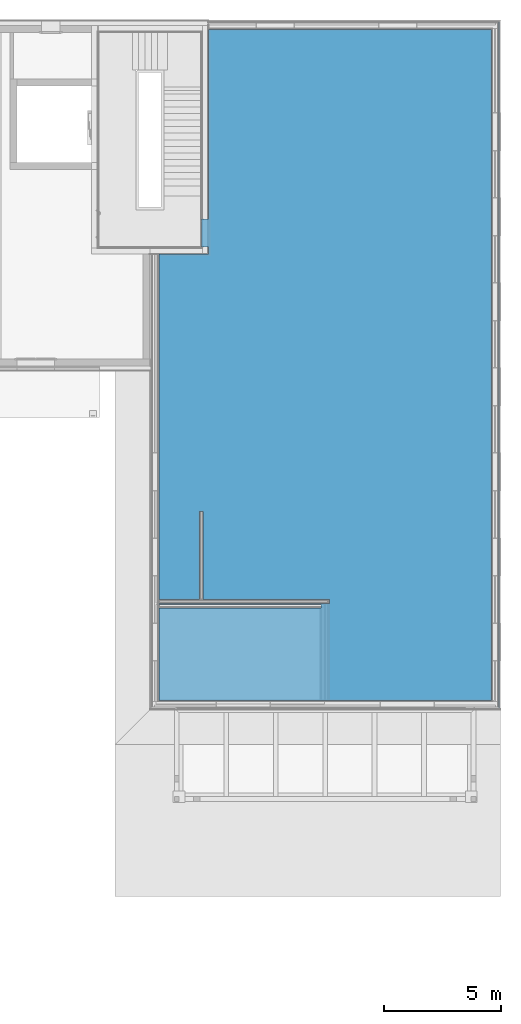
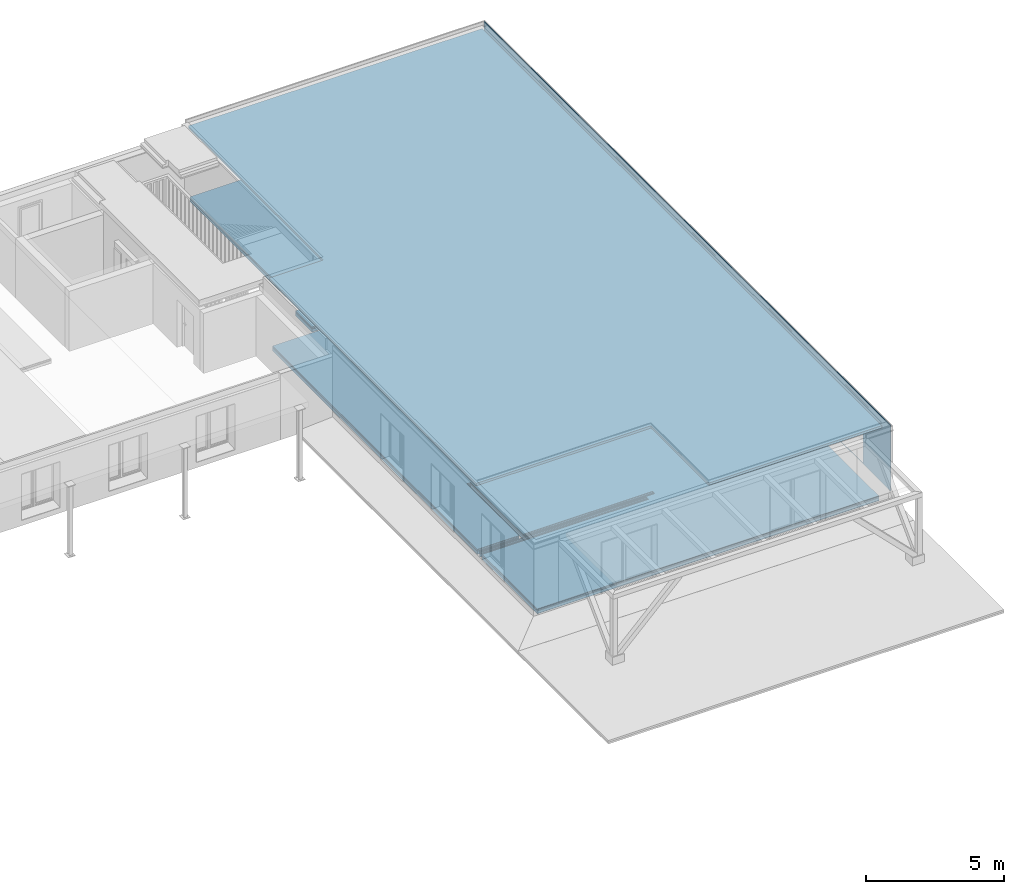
# One storey, part 14 of 20: 7 building element parts, 7 openings, 3 elements without a shape of their own.
"""IFC4 building model written with IfcOpenShell, lengths in millimetres."""

from ifc_helpers import new_model, entity, si_unit, converted_unit, derived_unit, direction, frame, origin_with_axes, place, context, subcontext, project, spatial, polygons, material, type_object, element, aggregate, save


model = new_model("IFC4")

# Units and contexts
model_context = context("Model", 3, precision=0.01, world=origin_with_axes(), true_north=direction((0.0, 1.0)))
body_context = subcontext(model_context, "Body", "Model", "MODEL_VIEW")
ifc_project = project(units=[si_unit("LENGTHUNIT", "METRE", prefix="MILLI"), si_unit("AREAUNIT", "SQUARE_METRE"), si_unit("VOLUMEUNIT", "CUBIC_METRE"), converted_unit("PLANEANGLEUNIT", "DEGREE", entity("IfcPlaneAngleMeasure", 0.0174532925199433), si_unit("PLANEANGLEUNIT", "RADIAN"), dimensions=[0, 0, 0, 0, 0, 0, 0]), converted_unit("TIMEUNIT", "Year", entity("IfcTimeMeasure", 31557600.0), si_unit("TIMEUNIT", "SECOND"), dimensions=[0, 0, 1, 0, 0, 0, 0]), si_unit("MASSUNIT", "GRAM", prefix="KILO"), si_unit("THERMODYNAMICTEMPERATUREUNIT", "DEGREE_CELSIUS"), si_unit("LUMINOUSINTENSITYUNIT", "LUMEN"), si_unit("ENERGYUNIT", "JOULE", prefix="MEGA"), derived_unit("THERMALCONDUCTANCEUNIT", [(si_unit("POWERUNIT", "WATT"), 1), (si_unit("LENGTHUNIT", "METRE"), -1), (si_unit("THERMODYNAMICTEMPERATUREUNIT", "KELVIN"), -1)]), derived_unit("SPECIFICHEATCAPACITYUNIT", [(si_unit("ENERGYUNIT", "JOULE"), 1), (si_unit("MASSUNIT", "GRAM", prefix="KILO"), -1), (si_unit("THERMODYNAMICTEMPERATUREUNIT", "KELVIN"), -1)]), derived_unit("MASSDENSITYUNIT", [(si_unit("MASSUNIT", "GRAM", prefix="KILO"), 1), (si_unit("VOLUMEUNIT", "CUBIC_METRE"), -1)])], contexts=[model_context])

# Site, building, storey
site_placement = place(None, origin_with_axes())
site = spatial("IfcSite", under=ifc_project, at=site_placement, Name="Gelände", CompositionType="ELEMENT")
building_placement = place(site_placement, origin_with_axes())
building = spatial("IfcBuilding", under=site, at=building_placement, Name="Gebäude", CompositionType="ELEMENT")
storey_placement = place(building_placement, frame((0.0, 0.0, 5.198845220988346e-05), z_axis=(0.0, 0.0, 1.0), x_axis=(1.0, 0.0, 0.0)))
storey = spatial("IfcBuildingStorey", under=building, at=storey_placement, Name="EG", CompositionType="ELEMENT", Elevation=0.0)

# Curtain wall, openings, building element part
curtain_wall_type = type_object("IfcCurtainWallType", Name="Fassade Typ 02 - Vertikale Schalung 71", PredefinedType="NOTDEFINED")
curtain_wall_placement = place(storey_placement, frame((32928.99744477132, 37947.59728131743, 500.0000000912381), z_axis=(0.0, 0.0, 1.0), x_axis=(0.0, -1.0, 0.0)))
curtain_wall = element("IfcCurtainWall", 1, at=curtain_wall_placement, inside=storey, type_object=curtain_wall_type, Name="AW01", PredefinedType="NOTDEFINED")
opening_1_placement = place(curtain_wall_placement, frame((26608.00000000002, 0.0, 9.999999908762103), z_axis=(0.0, 0.0, 1.0), x_axis=(1.0, 0.0, 0.0)))
element("IfcOpeningElement", 2, at=opening_1_placement, cuts=curtain_wall, Name="Fenster-004", context=body_context, identifier="Reference", shape_type="Tessellation", body=[
    polygons([(820.9999999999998, 0.9999999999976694, 2030.0), (820.9999999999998, 0.9999999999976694, 0.0), (-820.9999999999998, 0.9999999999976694, 0.0), (-820.9999999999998, 0.9999999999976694, 2030.0), (820.9999999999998, -71.99999999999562, 2030.0), (820.9999999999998, -71.99999999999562, 0.0), (-820.9999999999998, -71.99999999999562, 0.0), (-820.9999999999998, -71.99999999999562, 2030.0)], [[[1, 2, 3, 4]], [[5, 6, 2, 1]], [[6, 7, 3, 2]], [[7, 8, 4, 3]], [[8, 5, 1, 4]], [[7, 6, 5, 8]]], closed=True),
])
opening_2_placement = place(curtain_wall_placement, frame((22966.00000000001, 0.0, 9.999999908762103), z_axis=(0.0, 0.0, 1.0), x_axis=(1.0, 0.0, 0.0)))
element("IfcOpeningElement", 3, at=opening_2_placement, cuts=curtain_wall, Name="Fenster-004", context=body_context, identifier="Reference", shape_type="Tessellation", body=[
    polygons([(820.9999999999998, 0.9999999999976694, 2030.0), (820.9999999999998, 0.9999999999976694, 0.0), (-820.9999999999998, 0.9999999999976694, 0.0), (-820.9999999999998, 0.9999999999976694, 2030.0), (820.9999999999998, -71.99999999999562, 2030.0), (820.9999999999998, -71.99999999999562, 0.0), (-820.9999999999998, -71.99999999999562, 0.0), (-820.9999999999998, -71.99999999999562, 2030.0)], [[[1, 2, 3, 4]], [[5, 6, 2, 1]], [[6, 7, 3, 2]], [[7, 8, 4, 3]], [[8, 5, 1, 4]], [[7, 6, 5, 8]]], closed=True),
])
opening_3_placement = place(curtain_wall_placement, frame((15682.00000000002, 0.0, 9.999999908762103), z_axis=(0.0, 0.0, 1.0), x_axis=(1.0, 0.0, 0.0)))
element("IfcOpeningElement", 4, at=opening_3_placement, cuts=curtain_wall, Name="Fenster-004", context=body_context, identifier="Reference", shape_type="Tessellation", body=[
    polygons([(821.0000000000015, 0.9999999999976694, 2030.0), (821.0000000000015, 0.9999999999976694, 0.0), (-821.0000000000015, 0.9999999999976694, 0.0), (-821.0000000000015, 0.9999999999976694, 2030.0), (821.0000000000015, -71.99999999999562, 2030.0), (821.0000000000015, -71.99999999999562, 0.0), (-821.0000000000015, -71.99999999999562, 0.0), (-821.0000000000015, -71.99999999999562, 2030.0)], [[[1, 2, 3, 4]], [[5, 6, 2, 1]], [[6, 7, 3, 2]], [[7, 8, 4, 3]], [[8, 5, 1, 4]], [[7, 6, 5, 8]]], closed=True),
])
opening_4_placement = place(curtain_wall_placement, frame((12040.00000000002, 0.0, 9.999999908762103), z_axis=(0.0, 0.0, 1.0), x_axis=(1.0, 0.0, 0.0)))
element("IfcOpeningElement", 5, at=opening_4_placement, cuts=curtain_wall, Name="Fenster-004", context=body_context, identifier="Reference", shape_type="Tessellation", body=[
    polygons([(821.0000000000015, 0.9999999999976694, 2030.0), (821.0000000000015, 0.9999999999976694, 0.0), (-821.0000000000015, 0.9999999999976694, 0.0), (-821.0000000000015, 0.9999999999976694, 2030.0), (821.0000000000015, -71.99999999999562, 2030.0), (821.0000000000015, -71.99999999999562, 0.0), (-821.0000000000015, -71.99999999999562, 0.0), (-821.0000000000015, -71.99999999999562, 2030.0)], [[[1, 2, 3, 4]], [[5, 6, 2, 1]], [[6, 7, 3, 2]], [[7, 8, 4, 3]], [[8, 5, 1, 4]], [[7, 6, 5, 8]]], closed=True),
])
opening_5_placement = place(curtain_wall_placement, frame((19324.00000000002, 0.0, 9.999999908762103), z_axis=(0.0, 0.0, 1.0), x_axis=(1.0, 0.0, 0.0)))
element("IfcOpeningElement", 6, at=opening_5_placement, cuts=curtain_wall, Name="Fenster-004", context=body_context, identifier="Reference", shape_type="Tessellation", body=[
    polygons([(821.0000000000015, 0.9999999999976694, 2030.0), (821.0000000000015, 0.9999999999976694, 0.0), (-821.0000000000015, 0.9999999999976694, 0.0), (-821.0000000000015, 0.9999999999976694, 2030.0), (821.0000000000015, -71.99999999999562, 2030.0), (821.0000000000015, -71.99999999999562, 0.0), (-821.0000000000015, -71.99999999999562, 0.0), (-821.0000000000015, -71.99999999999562, 2030.0)], [[[1, 2, 3, 4]], [[5, 6, 2, 1]], [[6, 7, 3, 2]], [[7, 8, 4, 3]], [[8, 5, 1, 4]], [[7, 6, 5, 8]]], closed=True),
])
opening_6_placement = place(curtain_wall_placement, frame((8398.000000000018, 0.0, 9.999999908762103), z_axis=(0.0, 0.0, 1.0), x_axis=(1.0, 0.0, 0.0)))
element("IfcOpeningElement", 7, at=opening_6_placement, cuts=curtain_wall, Name="Fenster-004", context=body_context, identifier="Reference", shape_type="Tessellation", body=[
    polygons([(821.0000000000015, 0.9999999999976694, 2030.0), (821.0000000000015, 0.9999999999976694, 0.0), (-821.0000000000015, 0.9999999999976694, 0.0), (-821.0000000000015, 0.9999999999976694, 2030.0), (821.0000000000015, -71.99999999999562, 2030.0), (821.0000000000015, -71.99999999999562, 0.0), (-821.0000000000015, -71.99999999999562, 0.0), (-821.0000000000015, -71.99999999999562, 2030.0)], [[[1, 2, 3, 4]], [[5, 6, 2, 1]], [[6, 7, 3, 2]], [[7, 8, 4, 3]], [[8, 5, 1, 4]], [[7, 6, 5, 8]]], closed=True),
])
opening_7_placement = place(curtain_wall_placement, frame((4756.000000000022, 0.0, 9.999999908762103), z_axis=(0.0, 0.0, 1.0), x_axis=(1.0, 0.0, 0.0)))
element("IfcOpeningElement", 8, at=opening_7_placement, cuts=curtain_wall, Name="Fenster-004", context=body_context, identifier="Reference", shape_type="Tessellation", body=[
    polygons([(820.999999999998, 0.9999999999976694, 2030.0), (820.999999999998, 0.9999999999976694, 0.0), (-820.999999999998, 0.9999999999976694, 0.0), (-820.999999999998, 0.9999999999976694, 2030.0), (820.999999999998, -71.99999999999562, 2030.0), (820.999999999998, -71.99999999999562, 0.0), (-820.999999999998, -71.99999999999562, 0.0), (-820.999999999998, -71.99999999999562, 2030.0)], [[[1, 2, 3, 4]], [[5, 6, 2, 1]], [[6, 7, 3, 2]], [[7, 8, 4, 3]], [[8, 5, 1, 4]], [[7, 6, 5, 8]]], closed=True),
])
ifc_material_1 = material(Name="Lattenrost vertikal")
building_element_part_1_placement = place(curtain_wall_placement, origin_with_axes())
building_element_part_1 = element("IfcBuildingElementPart", 9, at=building_element_part_1_placement, material=ifc_material_1, Name="Lattenrost vertikal", PredefinedType="NOTDEFINED", context=body_context, shape_type="Tessellation", body=[
    polygons([(29429.00000000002, -71.00000000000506, 0.0), (29429.00000015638, -71.0000014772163, 2727.641121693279), (71.00001874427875, -71.00000085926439, 2727.641121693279), (70.99999999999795, -70.99999999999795, 0.0), (25787.00000000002, -71.0000014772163, 2039.999999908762), (27429.00000000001, -71.0000014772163, 2039.999999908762), (27429.00000000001, -71.0000014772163, 9.999999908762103), (25787.00000000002, -71.0000014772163, 9.999999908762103), (22145.00000000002, -71.00000085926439, 9.999999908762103), (22145.00000000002, -71.00000085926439, 2039.999999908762), (23787.00000000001, -71.00000085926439, 2039.999999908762), (23787.00000000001, -71.00000085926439, 9.999999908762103), (20145.00000000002, -70.99999999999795, 9.999999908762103), (18503.00000000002, -70.99999999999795, 9.999999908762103), (18503.00000000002, -70.99999999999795, 2039.999999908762), (20145.00000000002, -70.99999999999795, 2039.999999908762), (16503.00000000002, -71.00000000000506, 2039.999999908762), (16503.00000000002, -71.00000000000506, 9.999999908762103), (14861.00000000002, -71.00000000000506, 9.999999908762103), (14861.00000000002, -71.00000000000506, 2039.999999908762), (11219.00000000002, -71.0000014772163, 2039.999999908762), (12861.00000000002, -71.0000014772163, 2039.999999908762), (12861.00000000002, -71.0000014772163, 9.999999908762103), (11219.00000000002, -71.0000014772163, 9.999999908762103), (7577.000000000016, -71.00000085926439, 9.999999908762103), (7577.000000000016, -71.00000085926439, 2039.999999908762), (9219.000000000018, -71.00000085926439, 2039.999999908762), (9219.000000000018, -71.00000085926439, 9.999999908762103), (5577.000000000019, -70.99999999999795, 9.999999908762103), (3935.000000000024, -70.99999999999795, 9.999999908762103), (3935.000000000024, -70.99999999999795, 2039.999999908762), (5577.000000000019, -70.99999999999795, 2039.999999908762), (29429.00000000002, -46.00000000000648, 0.0), (29429.00000000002, -46.00000000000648, 2725.173192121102), (70.99999999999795, -45.99999999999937, 2725.173192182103), (70.99999999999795, -45.99999999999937, 0.0), (25787.00000000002, -45.99999999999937, 2039.999999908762), (27429.00000000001, -45.99999999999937, 2039.999999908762), (27429.00000000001, -45.99999999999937, 9.999999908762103), (25787.00000000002, -45.99999999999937, 9.999999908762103), (22145.00000000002, -46.00000000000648, 2039.999999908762), (22145.00000000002, -46.00000000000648, 9.999999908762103), (23787.00000000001, -46.00000000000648, 2039.999999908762), (23787.00000000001, -46.00000000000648, 9.999999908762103), (20145.00000000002, -46.00000000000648, 9.999999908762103), (18503.00000000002, -46.00000000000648, 9.999999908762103), (18503.00000000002, -46.00000000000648, 2039.999999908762), (20145.00000000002, -46.00000000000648, 2039.999999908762), (16503.00000000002, -45.99999999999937, 2039.999999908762), (16503.00000000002, -45.99999999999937, 9.999999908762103), (14861.00000000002, -45.99999999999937, 9.999999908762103), (14861.00000000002, -45.99999999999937, 2039.999999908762), (11219.00000000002, -45.99999999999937, 2039.999999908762), (12861.00000000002, -45.99999999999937, 2039.999999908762), (12861.00000000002, -45.99999999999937, 9.999999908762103), (11219.00000000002, -45.99999999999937, 9.999999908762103), (7577.000000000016, -46.00000000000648, 2039.999999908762), (7577.000000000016, -46.00000000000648, 9.999999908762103), (9219.000000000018, -46.00000000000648, 2039.999999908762), (9219.000000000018, -46.00000000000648, 9.999999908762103), (5577.000000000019, -46.00000000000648, 9.999999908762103), (3935.000000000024, -46.00000000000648, 9.999999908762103), (3935.000000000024, -46.00000000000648, 2039.999999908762), (5577.000000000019, -46.00000000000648, 2039.999999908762)], [[[1, 2, 3, 4], [5, 6, 7, 8], [9, 10, 11, 12], [13, 14, 15, 16], [17, 18, 19, 20], [21, 22, 23, 24], [25, 26, 27, 28], [29, 30, 31, 32]], [[33, 34, 2, 1]], [[2, 34, 35, 3]], [[4, 3, 35, 36]], [[36, 33, 1, 4]], [[6, 5, 37, 38]], [[7, 6, 38, 39]], [[8, 7, 39, 40]], [[5, 8, 40, 37]], [[41, 10, 9, 42]], [[43, 11, 10, 41]], [[44, 12, 11, 43]], [[42, 9, 12, 44]], [[45, 46, 14, 13]], [[46, 47, 15, 14]], [[47, 48, 16, 15]], [[48, 45, 13, 16]], [[17, 49, 50, 18]], [[18, 50, 51, 19]], [[19, 51, 52, 20]], [[20, 52, 49, 17]], [[22, 21, 53, 54]], [[23, 22, 54, 55]], [[24, 23, 55, 56]], [[21, 24, 56, 53]], [[57, 26, 25, 58]], [[59, 27, 26, 57]], [[60, 28, 27, 59]], [[58, 25, 28, 60]], [[61, 62, 30, 29]], [[62, 63, 31, 30]], [[63, 64, 32, 31]], [[64, 61, 29, 32]], [[36, 35, 34, 33], [37, 40, 39, 38], [43, 41, 42, 44], [45, 48, 47, 46], [51, 50, 49, 52], [53, 56, 55, 54], [59, 57, 58, 60], [61, 64, 63, 62]]], closed=True),
    polygons([(29429.00000000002, -46.00000000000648, 2728.190165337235), (70.99999999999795, -45.99999999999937, 2728.190165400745), (70.99999999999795, -45.99999999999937, 2899.999947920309), (29429.00000000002, -46.00000000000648, 2899.999947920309), (70.99999999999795, -68.29999970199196, 2730.482074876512), (29429.00000000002, -68.30000031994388, 2730.482074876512), (70.99999999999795, -68.29999970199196, 2760.650824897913), (71.00001874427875, -71.00000085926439, 2760.650824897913), (70.99999999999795, -70.99999999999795, 2899.999947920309), (29429.00000000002, -71.00000000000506, 2899.999947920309), (29429.00000015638, -71.0000014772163, 2760.650824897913), (29429.00000000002, -68.30000031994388, 2760.650824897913)], [[[1, 2, 3, 4]], [[5, 2, 1, 6]], [[7, 8, 9, 3, 2, 5]], [[10, 4, 3, 9]], [[6, 1, 4, 10, 11, 12]], [[7, 5, 6, 12]], [[8, 7, 12, 11]], [[8, 11, 10, 9]]], closed=True),
])
aggregate(curtain_wall, [building_element_part_1])

# Slab, building element part
slab_type = type_object("IfcSlabType", Name="Geschossdecke Typ 01 256", PredefinedType="NOTDEFINED")
slab_placement = place(storey_placement, frame((32679.99744477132, 8834.110519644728, 3399.999948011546), z_axis=(0.0, 0.0, 1.0), x_axis=(1.0, 0.0, 0.0)))
slab = element("IfcSlab", 10, at=slab_placement, inside=storey, type_object=slab_type, Name="Deckennr.-073", PredefinedType="NOTDEFINED")
ifc_material_2 = material(Name="Balken Konstruktion gedämmt")
building_element_part_2_placement = place(slab_placement, origin_with_axes())
building_element_part_2 = element("IfcBuildingElementPart", 11, at=building_element_part_2_placement, material=ifc_material_2, Name="Balken Konstruktion gedämmt", PredefinedType="NOTDEFINED", context=body_context, shape_type="Tessellation", body=[
    polygons([(-12242.00000000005, 19104.48676167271, -237.9999999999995), (-12242.00000000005, 19104.48676167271, -156.9999999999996), (-12242.00000000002, 28634.4867616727, -156.9999999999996), (-12242.00000000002, 28634.4867616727, -237.9999999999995), (-14272.00000000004, 19104.48676167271, -237.9999999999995), (-14272.00000000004, 19104.48676167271, -156.9999999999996), (-14272.00000000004, 19113.48676167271, -156.9999999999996), (-12251.00000000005, 19113.48676167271, -156.9999999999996), (-12251.00000000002, 28634.4867616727, -156.9999999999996), (-12251.00000000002, 28634.4867616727, -237.9999999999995), (-12251.00000000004, 28864.48676167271, -237.9999999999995), (0.0, 28864.48676167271, -237.9999999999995), (0.0, 0.0, -237.9999999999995), (-7216.693193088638, -7.457122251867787, -237.9999999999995), (-7220.999984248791, 4160.476485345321, -237.9999999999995), (-14502.00000000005, 4167.958667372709, -237.9999999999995), (-14502.00000000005, 19113.48676167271, -237.9999999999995), (-14272.00000000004, 19113.48676167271, -237.9999999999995), (-14502.00000000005, 19113.48676167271, -137.9999999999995), (-12251.00000000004, 19113.48676167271, -137.9999999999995), (-12251.00000000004, 28864.48676167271, -137.9999999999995), (0.0, 28864.48676167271, -137.9999999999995), (0.0, 0.0, -137.9999999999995), (-7216.693193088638, -7.457122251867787, -137.9999999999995), (-7220.999984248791, 4160.476485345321, -137.9999999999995), (-14502.00000000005, 4167.958667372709, -137.9999999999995)], [[[1, 2, 3, 4]], [[2, 1, 5, 6]], [[2, 6, 7, 8, 9, 3]], [[10, 4, 3, 9]], [[5, 1, 4, 10, 11, 12, 13, 14, 15, 16, 17, 18]], [[18, 7, 6, 5]], [[7, 18, 17, 19, 20, 8]], [[9, 8, 20, 21, 11, 10]], [[22, 12, 11, 21]], [[23, 13, 12, 22]], [[24, 14, 13, 23]], [[25, 15, 14, 24]], [[26, 16, 15, 25]], [[19, 17, 16, 26]], [[25, 24, 23, 22, 21, 20, 19, 26]]], closed=True),
])
aggregate(slab, [building_element_part_2])

# Covering, building element parts
covering_type = type_object("IfcCoveringType", Name="Bodenaufbau Typ 04 220", PredefinedType="NOTDEFINED")
covering_placement = place(storey_placement, frame((18307.99744477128, 8826.597281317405, 0.0), z_axis=(0.0, 0.0, 1.0), x_axis=(1.0, 0.0, 0.0)))
covering = element("IfcCovering", 12, at=covering_placement, inside=storey, type_object=covering_type, Name="Decke-006", PredefinedType="NOTDEFINED")
ifc_material_3 = material(Name="Unterlagsboden")
building_element_part_3_placement = place(covering_placement, origin_with_axes())
building_element_part_3 = element("IfcBuildingElementPart", 13, at=building_element_part_3_placement, material=ifc_material_3, Name="Unterlagsboden", PredefinedType="NOTDEFINED", context=body_context, shape_type="Tessellation", body=[
    polygons([(1899.507296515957, 8095.053714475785, 205.0000000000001), (1899.507296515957, 4324.000000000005, 205.0000000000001), (7306.999999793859, 4324.000002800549, 205.0000000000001), (7306.999999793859, 4168.000000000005, 205.0000000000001), (0.0, 4168.000000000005, 205.0000000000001), (0.0, 4128.000000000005, 205.0000000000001), (6934.999999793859, 4128.00000298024, 205.0000000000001), (6934.999999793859, 3972.000000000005, 205.0000000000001), (0.0, 3972.000000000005, 205.0000000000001), (0.0, 0.0, 205.0000000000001), (14242.00000000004, 0.0, 205.0000000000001), (14242.00000000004, 28742.00000000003, 205.0000000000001), (2121.000000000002, 28742.00000000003, 205.0000000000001), (2121.000000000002, 20621.00000000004, 205.0000000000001), (1820.999992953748, 20621.00000000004, 205.0000000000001), (1820.999992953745, 19421.00000000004, 205.0000000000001), (2120.999999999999, 19421.00000000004, 205.0000000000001), (2121.000000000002, 19121.00000000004, 205.0000000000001), (0.0, 19121.00000000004, 205.0000000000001), (0.0, 4324.000000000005, 205.0000000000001), (1745.507296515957, 4324.000000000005, 205.0000000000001), (1745.507296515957, 8095.053714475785, 205.0000000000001), (1899.507296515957, 8095.053714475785, 149.9999999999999), (1899.507296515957, 4324.000000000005, 149.9999999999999), (7306.999999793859, 4324.000002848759, 149.9999999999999), (7306.999999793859, 4168.000000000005, 149.9999999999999), (0.0, 4168.000000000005, 149.9999999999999), (0.0, 4128.000000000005, 149.9999999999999), (6934.999999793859, 4128.00000298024, 149.9999999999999), (6934.999999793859, 3972.000000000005, 149.9999999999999), (0.0, 3972.000000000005, 149.9999999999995), (0.0, 0.0, 149.9999999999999), (14242.00000000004, 0.0, 149.9999999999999), (14242.00000000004, 28742.00000000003, 149.9999999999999), (2121.000000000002, 28742.00000000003, 149.9999999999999), (2121.000000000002, 20621.00000000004, 149.9999999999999), (1820.999992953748, 20621.00000000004, 149.9999999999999), (1820.999992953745, 19421.00000000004, 149.9999999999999), (2120.999999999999, 19421.00000000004, 149.9999999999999), (2121.000000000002, 19121.00000000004, 149.9999999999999), (0.0, 19121.00000000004, 149.9999999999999), (0.0, 4324.000000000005, 149.9999999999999), (1745.507296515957, 4324.000000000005, 149.9999999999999), (1745.507296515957, 8095.053714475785, 149.9999999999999)], [[[1, 2, 3, 4, 5, 6, 7, 8, 9, 10, 11, 12, 13, 14, 15, 16, 17, 18, 19, 20, 21, 22]], [[2, 1, 23, 24]], [[2, 24, 25, 3]], [[25, 26, 4, 3]], [[5, 4, 26, 27]], [[5, 27, 28, 6]], [[7, 6, 28, 29]], [[29, 30, 8, 7]], [[9, 8, 30, 31]], [[9, 31, 32, 10]], [[32, 33, 11, 10]], [[33, 34, 12, 11]], [[34, 35, 13, 12]], [[35, 36, 14, 13]], [[36, 37, 15, 14]], [[37, 38, 16, 15]], [[38, 39, 17, 16]], [[39, 40, 18, 17]], [[40, 41, 19, 18]], [[42, 20, 19, 41]], [[43, 21, 20, 42]], [[22, 21, 43, 44]], [[23, 1, 22, 44]], [[23, 44, 43, 42, 41, 40, 39, 38, 37, 36, 35, 34, 33, 32, 31, 30, 29, 28, 27, 26, 25, 24]]], closed=True),
])
ifc_material_4 = material(Name="Bodenbelag")
building_element_part_4_placement = place(covering_placement, origin_with_axes())
building_element_part_4 = element("IfcBuildingElementPart", 14, at=building_element_part_4_placement, material=ifc_material_4, Name="Bodenbelag", PredefinedType="NOTDEFINED", context=body_context, shape_type="Tessellation", body=[
    polygons([(1899.507296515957, 8095.053714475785, 219.9999480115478), (1899.507296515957, 4324.000000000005, 219.9999480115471), (7306.999999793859, 4324.0000027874, 219.9999480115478), (7306.999999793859, 4168.000000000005, 219.9999480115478), (0.0, 4168.000000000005, 219.9999480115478), (0.0, 4128.000000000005, 219.9999480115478), (6934.999999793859, 4128.00000298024, 219.9999480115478), (6934.999999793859, 3972.000000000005, 219.9999480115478), (0.0, 3972.000000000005, 219.9999480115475), (0.0, 0.0, 219.9999480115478), (14242.00000000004, 0.0, 219.9999480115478), (14242.00000000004, 28742.00000000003, 219.9999480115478), (2121.000000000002, 28742.00000000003, 219.9999480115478), (2121.000000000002, 20621.00000000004, 219.9999480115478), (1820.999992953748, 20621.00000000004, 219.9999480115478), (1820.999992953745, 19421.00000000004, 219.9999480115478), (2120.999999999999, 19421.00000000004, 219.9999480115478), (2121.000000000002, 19121.00000000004, 219.9999480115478), (0.0, 19121.00000000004, 219.9999480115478), (0.0, 4324.000000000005, 219.9999480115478), (1745.507296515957, 4324.000000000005, 219.9999480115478), (1745.507296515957, 8095.053714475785, 219.999948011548), (1899.507296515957, 8095.053714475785, 205.0000000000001), (1899.507296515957, 4324.000000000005, 205.0000000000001), (7306.999999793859, 4324.000002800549, 205.0000000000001), (7306.999999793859, 4168.000000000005, 205.0000000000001), (0.0, 4168.000000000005, 205.0000000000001), (0.0, 4128.000000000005, 205.0000000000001), (6934.999999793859, 4128.00000298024, 205.0000000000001), (6934.999999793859, 3972.000000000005, 205.0000000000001), (0.0, 3972.000000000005, 205.0000000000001), (0.0, 0.0, 205.0000000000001), (14242.00000000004, 0.0, 205.0000000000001), (14242.00000000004, 28742.00000000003, 205.0000000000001), (2121.000000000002, 28742.00000000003, 205.0000000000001), (2121.000000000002, 20621.00000000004, 205.0000000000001), (1820.999992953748, 20621.00000000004, 205.0000000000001), (1820.999992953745, 19421.00000000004, 205.0000000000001), (2120.999999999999, 19421.00000000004, 205.0000000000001), (2121.000000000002, 19121.00000000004, 205.0000000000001), (0.0, 19121.00000000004, 205.0000000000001), (0.0, 4324.000000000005, 205.0000000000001), (1745.507296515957, 4324.000000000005, 205.0000000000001), (1745.507296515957, 8095.053714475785, 205.0000000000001)], [[[1, 2, 3, 4, 5, 6, 7, 8, 9, 10, 11, 12, 13, 14, 15, 16, 17, 18, 19, 20, 21, 22]], [[2, 1, 23, 24]], [[2, 24, 25, 3]], [[25, 26, 4, 3]], [[5, 4, 26, 27]], [[5, 27, 28, 6]], [[7, 6, 28, 29]], [[29, 30, 8, 7]], [[9, 8, 30, 31]], [[9, 31, 32, 10]], [[32, 33, 11, 10]], [[33, 34, 12, 11]], [[34, 35, 13, 12]], [[35, 36, 14, 13]], [[36, 37, 15, 14]], [[37, 38, 16, 15]], [[38, 39, 17, 16]], [[39, 40, 18, 17]], [[40, 41, 19, 18]], [[42, 20, 19, 41]], [[43, 21, 20, 42]], [[22, 21, 43, 44]], [[23, 1, 22, 44]], [[23, 44, 43, 42, 41, 40, 39, 38, 37, 36, 35, 34, 33, 32, 31, 30, 29, 28, 27, 26, 25, 24]]], closed=True),
])
building_element_part_5_placement = place(covering_placement, origin_with_axes())
building_element_part_5 = element("IfcBuildingElementPart", 15, at=building_element_part_5_placement, PredefinedType="NOTDEFINED", context=body_context, shape_type="Tessellation", body=[
    polygons([(1899.507296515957, 8095.053714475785, 149.9999999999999), (1899.507296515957, 4324.000000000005, 149.9999999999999), (7306.999999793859, 4324.000002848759, 149.9999999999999), (7306.999999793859, 4168.000000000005, 149.9999999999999), (0.0, 4168.000000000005, 149.9999999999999), (0.0, 4128.000000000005, 149.9999999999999), (6934.999999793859, 4128.00000298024, 149.9999999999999), (6934.999999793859, 3972.000000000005, 149.9999999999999), (0.0, 3972.000000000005, 149.9999999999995), (0.0, 0.0, 149.9999999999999), (14242.00000000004, 0.0, 149.9999999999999), (14242.00000000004, 28742.00000000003, 149.9999999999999), (2121.000000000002, 28742.00000000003, 149.9999999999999), (2121.000000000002, 20621.00000000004, 149.9999999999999), (1820.999992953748, 20621.00000000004, 149.9999999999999), (1820.999992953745, 19421.00000000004, 149.9999999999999), (2120.999999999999, 19421.00000000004, 149.9999999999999), (2121.000000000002, 19121.00000000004, 149.9999999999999), (0.0, 19121.00000000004, 149.9999999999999), (0.0, 4324.000000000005, 149.9999999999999), (1745.507296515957, 4324.000000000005, 149.9999999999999), (1745.507296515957, 8095.053714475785, 149.9999999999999), (1899.507296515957, 8095.053714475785, 130.0000000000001), (1899.507296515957, 4324.000000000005, 130.0000000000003), (7306.999999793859, 4324.00000286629, 130.0000000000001), (7306.999999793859, 4168.000000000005, 130.0000000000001), (0.0, 4168.000000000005, 130.0000000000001), (0.0, 4128.000000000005, 130.0000000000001), (6934.999999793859, 4128.00000298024, 130.0000000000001), (6934.999999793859, 3972.000000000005, 130.0000000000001), (0.0, 3972.000000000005, 130.0000000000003), (0.0, 0.0, 130.0000000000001), (14242.00000000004, 0.0, 130.0000000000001), (14242.00000000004, 28742.00000000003, 130.0000000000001), (2121.000000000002, 28742.00000000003, 130.0000000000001), (2121.000000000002, 20621.00000000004, 130.0000000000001), (1820.999992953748, 20621.00000000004, 130.0000000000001), (1820.999992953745, 19421.00000000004, 130.0000000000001), (2120.999999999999, 19421.00000000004, 130.0000000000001), (2121.000000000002, 19121.00000000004, 130.0000000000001), (0.0, 19121.00000000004, 130.0000000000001), (0.0, 4324.000000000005, 130.0000000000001), (1745.507296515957, 4324.000000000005, 130.0000000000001), (1745.507296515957, 8095.053714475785, 129.9999999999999)], [[[1, 2, 3, 4, 5, 6, 7, 8, 9, 10, 11, 12, 13, 14, 15, 16, 17, 18, 19, 20, 21, 22]], [[2, 1, 23, 24]], [[2, 24, 25, 3]], [[25, 26, 4, 3]], [[5, 4, 26, 27]], [[5, 27, 28, 6]], [[7, 6, 28, 29]], [[29, 30, 8, 7]], [[9, 8, 30, 31]], [[9, 31, 32, 10]], [[32, 33, 11, 10]], [[33, 34, 12, 11]], [[34, 35, 13, 12]], [[35, 36, 14, 13]], [[36, 37, 15, 14]], [[37, 38, 16, 15]], [[38, 39, 17, 16]], [[39, 40, 18, 17]], [[40, 41, 19, 18]], [[42, 20, 19, 41]], [[43, 21, 20, 42]], [[22, 21, 43, 44]], [[23, 1, 22, 44]], [[23, 44, 43, 42, 41, 40, 39, 38, 37, 36, 35, 34, 33, 32, 31, 30, 29, 28, 27, 26, 25, 24]]], closed=True),
])
ifc_material_5 = material(Name="Sperrschicht")
building_element_part_6_placement = place(covering_placement, origin_with_axes())
building_element_part_6 = element("IfcBuildingElementPart", 16, at=building_element_part_6_placement, material=ifc_material_5, Name="Sperrschicht", PredefinedType="NOTDEFINED", context=body_context, shape_type="Tessellation", body=[
    polygons([(1899.507296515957, 8095.053714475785, 10.00000000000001), (1899.507296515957, 4324.000000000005, 10.00000000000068), (7306.999999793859, 4324.000002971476, 10.00000000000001), (7306.999999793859, 4168.000000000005, 10.00000000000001), (0.0, 4168.000000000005, 10.00000000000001), (0.0, 4128.000000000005, 10.00000000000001), (6934.999999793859, 4128.00000298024, 10.00000000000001), (6934.999999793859, 3972.000000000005, 10.00000000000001), (0.0, 3972.000000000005, 10.00000000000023), (0.0, 0.0, 10.00000000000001), (14242.00000000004, 0.0, 10.00000000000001), (14242.00000000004, 28742.00000000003, 10.00000000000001), (2121.000000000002, 28742.00000000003, 10.00000000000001), (2121.000000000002, 20621.00000000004, 10.00000000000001), (1820.999992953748, 20621.00000000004, 10.00000000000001), (1820.999992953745, 19421.00000000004, 10.00000000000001), (2120.999999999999, 19421.00000000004, 10.00000000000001), (2121.000000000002, 19121.00000000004, 10.00000000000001), (0.0, 19121.00000000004, 10.00000000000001), (0.0, 4324.000000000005, 10.00000000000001), (1745.507296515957, 4324.000000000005, 10.00000000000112), (1745.507296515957, 8095.053714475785, 9.999999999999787), (1899.507296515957, 8095.053714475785, 0.0), (1899.507296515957, 4324.000000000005, 0.0), (7306.999999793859, 4324.00000298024, 0.0), (7306.999999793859, 4168.000000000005, 0.0), (0.0, 4168.000000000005, 0.0), (0.0, 4128.000000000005, 0.0), (6934.999999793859, 4128.00000298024, 0.0), (6934.999999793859, 3972.000000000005, 0.0), (0.0, 3972.000000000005, 0.0), (0.0, 0.0, -5.198845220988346e-05), (14242.00000000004, 0.0, -5.198845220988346e-05), (14242.00000000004, 28742.00000000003, -5.198845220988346e-05), (2121.000000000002, 28742.00000000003, -5.198845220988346e-05), (2121.000000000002, 20621.00000000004, -5.198845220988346e-05), (1820.999992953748, 20621.00000000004, -5.198845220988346e-05), (1820.999992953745, 19421.00000000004, -5.198845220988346e-05), (2120.999999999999, 19421.00000000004, -5.198845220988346e-05), (2121.000000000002, 19121.00000000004, -5.198845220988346e-05), (0.0, 19121.00000000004, -5.198845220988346e-05), (0.0, 4324.000000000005, 0.0), (1745.507296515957, 4324.000000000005, 0.0), (1745.507296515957, 8095.053714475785, 0.0)], [[[1, 2, 3, 4, 5, 6, 7, 8, 9, 10, 11, 12, 13, 14, 15, 16, 17, 18, 19, 20, 21, 22]], [[2, 1, 23, 24]], [[2, 24, 25, 3]], [[25, 26, 4, 3]], [[5, 4, 26, 27]], [[5, 27, 28, 6]], [[7, 6, 28, 29]], [[29, 30, 8, 7]], [[9, 8, 30, 31]], [[9, 31, 32, 10]], [[10, 32, 33, 11]], [[11, 33, 34, 12]], [[12, 34, 35, 13]], [[13, 35, 36, 14]], [[14, 36, 37, 15]], [[15, 37, 38, 16]], [[16, 38, 39, 17]], [[17, 39, 40, 18]], [[18, 40, 41, 19]], [[42, 20, 19, 41]], [[43, 21, 20, 42]], [[22, 21, 43, 44]], [[23, 1, 22, 44]], [[23, 44, 43, 42, 41, 40, 39, 38, 37, 36, 35, 34, 33, 32, 31, 30, 29, 28, 27, 26, 25, 24]]], closed=True),
])
building_element_part_7_placement = place(covering_placement, origin_with_axes())
building_element_part_7 = element("IfcBuildingElementPart", 17, at=building_element_part_7_placement, PredefinedType="NOTDEFINED", context=body_context, shape_type="Tessellation", body=[
    polygons([(1899.507296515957, 8095.053714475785, 129.9999999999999), (1899.507296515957, 4324.000000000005, 129.9999999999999), (7306.999999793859, 4324.00000286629, 129.9999999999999), (7306.999999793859, 4168.000000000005, 129.9999999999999), (0.0, 4168.000000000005, 129.9999999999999), (0.0, 4128.000000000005, 129.9999999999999), (6934.999999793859, 4128.00000298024, 129.9999999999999), (6934.999999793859, 3972.000000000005, 129.9999999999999), (0.0, 3972.000000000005, 129.9999999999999), (0.0, 0.0, 129.9999999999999), (14242.00000000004, 0.0, 129.9999999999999), (14242.00000000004, 28742.00000000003, 129.9999999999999), (2121.000000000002, 28742.00000000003, 129.9999999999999), (2121.000000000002, 20621.00000000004, 129.9999999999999), (1820.999992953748, 20621.00000000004, 129.9999999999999), (1820.999992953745, 19421.00000000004, 129.9999999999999), (2120.999999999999, 19421.00000000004, 129.9999999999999), (2121.000000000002, 19121.00000000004, 129.9999999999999), (0.0, 19121.00000000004, 129.9999999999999), (0.0, 4324.000000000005, 129.9999999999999), (1745.507296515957, 4324.000000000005, 129.9999999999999), (1745.507296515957, 8095.053714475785, 129.9999999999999), (1899.507296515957, 8095.053714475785, 10.00000000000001), (1899.507296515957, 4324.000000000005, 10.00000000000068), (7306.999999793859, 4324.000002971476, 10.00000000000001), (7306.999999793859, 4168.000000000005, 10.00000000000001), (0.0, 4168.000000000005, 10.00000000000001), (0.0, 4128.000000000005, 10.00000000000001), (6934.999999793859, 4128.00000298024, 10.00000000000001), (6934.999999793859, 3972.000000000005, 10.00000000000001), (0.0, 3972.000000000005, 10.00000000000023), (0.0, 0.0, 10.00000000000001), (14242.00000000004, 0.0, 10.00000000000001), (14242.00000000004, 28742.00000000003, 10.00000000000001), (2121.000000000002, 28742.00000000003, 10.00000000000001), (2121.000000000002, 20621.00000000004, 10.00000000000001), (1820.999992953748, 20621.00000000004, 10.00000000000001), (1820.999992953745, 19421.00000000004, 10.00000000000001), (2120.999999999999, 19421.00000000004, 10.00000000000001), (2121.000000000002, 19121.00000000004, 10.00000000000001), (0.0, 19121.00000000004, 10.00000000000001), (0.0, 4324.000000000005, 10.00000000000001), (1745.507296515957, 4324.000000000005, 10.00000000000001), (1745.507296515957, 8095.053714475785, 9.999999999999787)], [[[1, 2, 3, 4, 5, 6, 7, 8, 9, 10, 11, 12, 13, 14, 15, 16, 17, 18, 19, 20, 21, 22]], [[2, 1, 23, 24]], [[2, 24, 25, 3]], [[25, 26, 4, 3]], [[5, 4, 26, 27]], [[5, 27, 28, 6]], [[7, 6, 28, 29]], [[29, 30, 8, 7]], [[9, 8, 30, 31]], [[9, 31, 32, 10]], [[32, 33, 11, 10]], [[33, 34, 12, 11]], [[34, 35, 13, 12]], [[35, 36, 14, 13]], [[36, 37, 15, 14]], [[37, 38, 16, 15]], [[38, 39, 17, 16]], [[39, 40, 18, 17]], [[40, 41, 19, 18]], [[42, 20, 19, 41]], [[43, 21, 20, 42]], [[22, 21, 43, 44]], [[23, 1, 22, 44]], [[23, 44, 43, 42, 41, 40, 39, 38, 37, 36, 35, 34, 33, 32, 31, 30, 29, 28, 27, 26, 25, 24]]], closed=True),
])
aggregate(covering, [building_element_part_3, building_element_part_4, building_element_part_5, building_element_part_6, building_element_part_7])

save(model, "model.ifc")
